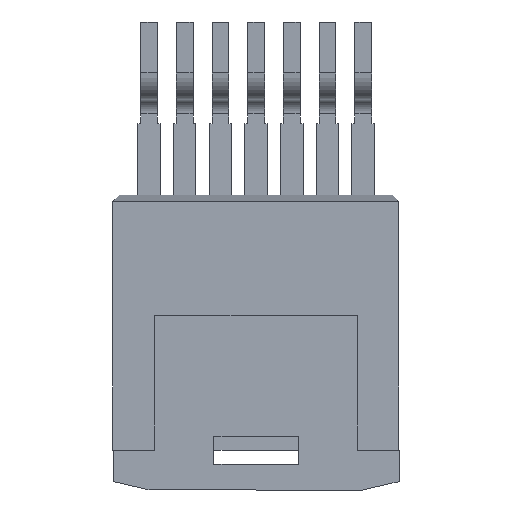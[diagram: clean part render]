
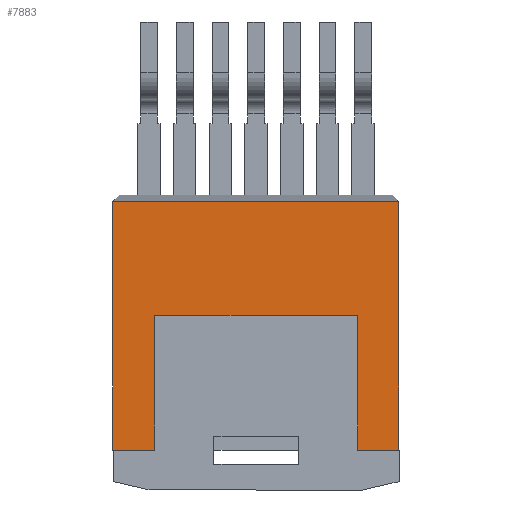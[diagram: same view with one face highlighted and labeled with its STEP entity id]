
A CAD part, front view. The second image highlights one B-rep face of the part: STEP entity #7883.
In plain terms, the highlighted planar face has unit normal (0, -1, 0).
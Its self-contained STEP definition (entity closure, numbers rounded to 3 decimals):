
#287 = DIRECTION ( 'NONE',  ( 0., 0., -1. ) ) ;
#445 = EDGE_CURVE ( 'NONE', #6352, #810, #4582, .T. ) ;
#579 = VERTEX_POINT ( 'NONE', #4019 ) ;
#684 = DIRECTION ( 'NONE',  ( 0., 1., 0. ) ) ;
#810 = VERTEX_POINT ( 'NONE', #8057 ) ;
#952 = DIRECTION ( 'NONE',  ( -1., 0., 0. ) ) ;
#1138 = VERTEX_POINT ( 'NONE', #1760 ) ;
#1190 = VECTOR ( 'NONE', #2974, 1000. ) ;
#1385 = CARTESIAN_POINT ( 'NONE',  ( 3.62, 0., -4.537 ) ) ;
#1612 = LINE ( 'NONE', #3033, #3664 ) ;
#1692 = VERTEX_POINT ( 'NONE', #6848 ) ;
#1760 = CARTESIAN_POINT ( 'NONE',  ( -3.603, 0., -4.537 ) ) ;
#1762 = DIRECTION ( 'NONE',  ( 0., 0., 1. ) ) ;
#1928 = EDGE_CURVE ( 'NONE', #6352, #2983, #5060, .T. ) ;
#2033 = AXIS2_PLACEMENT_3D ( 'NONE', #7039, #684, #3497 ) ;
#2055 = ORIENTED_EDGE ( 'NONE', *, *, #8549, .F. ) ;
#2091 = EDGE_LOOP ( 'NONE', ( #7703, #8953, #6564, #5830, #9071, #2797, #2055, #4793 ) ) ;
#2319 = EDGE_CURVE ( 'NONE', #1138, #579, #3882, .T. ) ;
#2797 = ORIENTED_EDGE ( 'NONE', *, *, #1928, .T. ) ;
#2974 = DIRECTION ( 'NONE',  ( -1., 0., 0. ) ) ;
#2983 = VERTEX_POINT ( 'NONE', #5721 ) ;
#3033 = CARTESIAN_POINT ( 'NONE',  ( -3.603, 0., 0.262 ) ) ;
#3497 = DIRECTION ( 'NONE',  ( 0., 0., 1. ) ) ;
#3531 = VECTOR ( 'NONE', #952, 1000. ) ;
#3664 = VECTOR ( 'NONE', #5953, 1000. ) ;
#3730 = LINE ( 'NONE', #5993, #7962 ) ;
#3773 = CARTESIAN_POINT ( 'NONE',  ( -5.09, 0., -4.537 ) ) ;
#3882 = LINE ( 'NONE', #7464, #7215 ) ;
#4019 = CARTESIAN_POINT ( 'NONE',  ( -3.603, 0., 0.262 ) ) ;
#4200 = FACE_OUTER_BOUND ( 'NONE', #2091, .T. ) ;
#4219 = DIRECTION ( 'NONE',  ( 0., 0., 1. ) ) ;
#4345 = CARTESIAN_POINT ( 'NONE',  ( 5.09, 0., 4.31 ) ) ;
#4382 = VERTEX_POINT ( 'NONE', #3773 ) ;
#4502 = CARTESIAN_POINT ( 'NONE',  ( 0., 0., 4.31 ) ) ;
#4582 = LINE ( 'NONE', #8148, #7252 ) ;
#4793 = ORIENTED_EDGE ( 'NONE', *, *, #6941, .F. ) ;
#5043 = CARTESIAN_POINT ( 'NONE',  ( -5.09, 0., -4.537 ) ) ;
#5060 = LINE ( 'NONE', #4502, #3531 ) ;
#5721 = CARTESIAN_POINT ( 'NONE',  ( -5.09, 0., 4.31 ) ) ;
#5784 = LINE ( 'NONE', #6453, #7523 ) ;
#5830 = ORIENTED_EDGE ( 'NONE', *, *, #5912, .F. ) ;
#5912 = EDGE_CURVE ( 'NONE', #810, #7858, #7156, .T. ) ;
#5953 = DIRECTION ( 'NONE',  ( 1., 0., 0. ) ) ;
#5993 = CARTESIAN_POINT ( 'NONE',  ( -5.09, 0., -4.537 ) ) ;
#6154 = PLANE ( 'NONE',  #2033 ) ;
#6352 = VERTEX_POINT ( 'NONE', #4345 ) ;
#6453 = CARTESIAN_POINT ( 'NONE',  ( 3.62, 0., 0.262 ) ) ;
#6564 = ORIENTED_EDGE ( 'NONE', *, *, #7590, .T. ) ;
#6834 = EDGE_CURVE ( 'NONE', #579, #1692, #1612, .T. ) ;
#6848 = CARTESIAN_POINT ( 'NONE',  ( 3.62, 0., 0.262 ) ) ;
#6941 = EDGE_CURVE ( 'NONE', #1138, #4382, #3730, .T. ) ;
#7039 = CARTESIAN_POINT ( 'NONE',  ( 0., 0., 0. ) ) ;
#7156 = LINE ( 'NONE', #7200, #1190 ) ;
#7200 = CARTESIAN_POINT ( 'NONE',  ( -5.09, 0., -4.537 ) ) ;
#7215 = VECTOR ( 'NONE', #1762, 1000. ) ;
#7252 = VECTOR ( 'NONE', #287, 1000. ) ;
#7464 = CARTESIAN_POINT ( 'NONE',  ( -3.603, 0., -4.537 ) ) ;
#7523 = VECTOR ( 'NONE', #8637, 1000. ) ;
#7590 = EDGE_CURVE ( 'NONE', #1692, #7858, #5784, .T. ) ;
#7703 = ORIENTED_EDGE ( 'NONE', *, *, #2319, .T. ) ;
#7858 = VERTEX_POINT ( 'NONE', #1385 ) ;
#7883 = ADVANCED_FACE ( 'NONE', ( #4200 ), #6154, .F. ) ;
#7962 = VECTOR ( 'NONE', #8795, 1000. ) ;
#8057 = CARTESIAN_POINT ( 'NONE',  ( 5.09, 0., -4.537 ) ) ;
#8148 = CARTESIAN_POINT ( 'NONE',  ( 5.09, 0., -4.537 ) ) ;
#8516 = LINE ( 'NONE', #5043, #9121 ) ;
#8549 = EDGE_CURVE ( 'NONE', #4382, #2983, #8516, .T. ) ;
#8637 = DIRECTION ( 'NONE',  ( 0., 0., -1. ) ) ;
#8795 = DIRECTION ( 'NONE',  ( -1., 0., 0. ) ) ;
#8953 = ORIENTED_EDGE ( 'NONE', *, *, #6834, .T. ) ;
#9071 = ORIENTED_EDGE ( 'NONE', *, *, #445, .F. ) ;
#9121 = VECTOR ( 'NONE', #4219, 1000. ) ;
